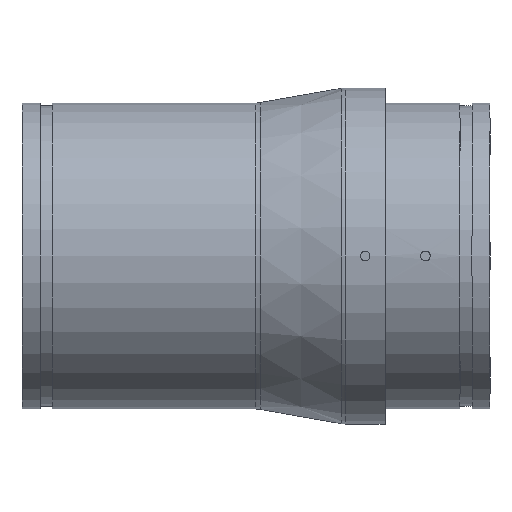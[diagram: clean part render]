
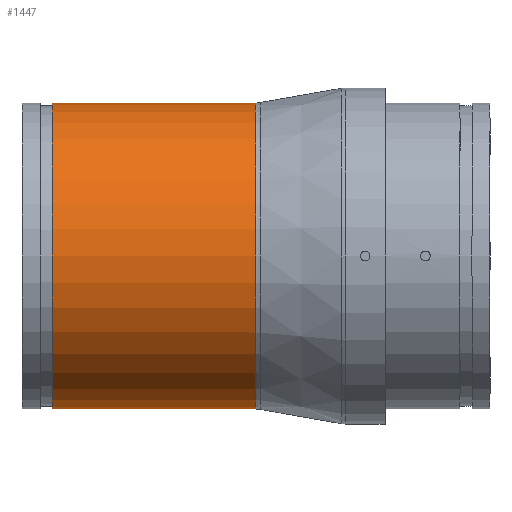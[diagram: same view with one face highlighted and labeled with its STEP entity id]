
A CAD part, front view. The second image highlights one B-rep face of the part: STEP entity #1447.
In plain terms, the highlighted cylindrical face has radius 161.925 mm (diameter 323.85 mm), a full revolution.
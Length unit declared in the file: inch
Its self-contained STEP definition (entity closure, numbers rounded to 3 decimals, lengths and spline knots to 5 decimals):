
#127=FACE_OUTER_BOUND('',#204,.T.);
#204=EDGE_LOOP('',(#1093,#1094,#1095,#1096,#1097,#1098,#1099,#1100,#1101,
#1102,#1103,#1104,#1105,#1106,#1107,#1108,#1109,#1110,#1111,#1112,#1113,
#1114,#1115,#1116,#1117));
#262=ELLIPSE('',#1568,6.47334,6.375);
#263=ELLIPSE('',#1572,6.47334,6.375);
#264=ELLIPSE('',#1574,6.47334,6.375);
#265=ELLIPSE('',#1577,6.47334,6.375);
#266=ELLIPSE('',#1579,6.47334,6.375);
#267=ELLIPSE('',#1582,6.47334,6.375);
#268=ELLIPSE('',#1591,6.78413,6.375);
#269=ELLIPSE('',#1592,42.30875,6.375);
#270=ELLIPSE('',#1597,42.30875,6.375);
#330=LINE('',#2320,#449);
#334=LINE('',#2329,#453);
#343=LINE('',#2351,#462);
#350=LINE('',#2369,#469);
#358=LINE('',#2408,#477);
#359=LINE('',#2410,#478);
#360=LINE('',#2413,#479);
#361=LINE('',#2414,#480);
#362=LINE('',#2420,#481);
#449=VECTOR('',#1843,0.3937);
#453=VECTOR('',#1849,0.3937);
#462=VECTOR('',#1868,0.3937);
#469=VECTOR('',#1885,0.3937);
#477=VECTOR('',#1913,0.3937);
#478=VECTOR('',#1914,0.3937);
#479=VECTOR('',#1917,0.3937);
#480=VECTOR('',#1918,0.3937);
#481=VECTOR('',#1923,6.375);
#525=CIRCLE('',#1584,6.375);
#530=CIRCLE('',#1593,6.375);
#531=CIRCLE('',#1594,6.375);
#532=CIRCLE('',#1595,6.375);
#533=CIRCLE('',#1596,6.375);
#534=CIRCLE('',#1598,6.375);
#626=VERTEX_POINT('',#2309);
#627=VERTEX_POINT('',#2310);
#630=VERTEX_POINT('',#2318);
#631=VERTEX_POINT('',#2319);
#634=VERTEX_POINT('',#2327);
#635=VERTEX_POINT('',#2328);
#637=VERTEX_POINT('',#2335);
#639=VERTEX_POINT('',#2341);
#641=VERTEX_POINT('',#2344);
#643=VERTEX_POINT('',#2350);
#645=VERTEX_POINT('',#2356);
#647=VERTEX_POINT('',#2362);
#649=VERTEX_POINT('',#2368);
#650=VERTEX_POINT('',#2373);
#653=VERTEX_POINT('',#2382);
#658=VERTEX_POINT('',#2409);
#659=VERTEX_POINT('',#2411);
#660=VERTEX_POINT('',#2415);
#661=VERTEX_POINT('',#2417);
#662=VERTEX_POINT('',#2419);
#663=VERTEX_POINT('',#2421);
#664=VERTEX_POINT('',#2424);
#665=VERTEX_POINT('',#2426);
#785=EDGE_CURVE('',#626,#627,#262,.T.);
#789=EDGE_CURVE('',#630,#631,#330,.T.);
#793=EDGE_CURVE('',#634,#635,#334,.T.);
#797=EDGE_CURVE('',#637,#630,#263,.T.);
#801=EDGE_CURVE('',#641,#639,#264,.T.);
#804=EDGE_CURVE('',#643,#641,#343,.T.);
#807=EDGE_CURVE('',#645,#643,#265,.T.);
#810=EDGE_CURVE('',#631,#647,#266,.T.);
#813=EDGE_CURVE('',#627,#649,#350,.T.);
#816=EDGE_CURVE('',#635,#650,#267,.T.);
#822=EDGE_CURVE('',#649,#653,#525,.T.);
#828=EDGE_CURVE('',#650,#637,#358,.T.);
#829=EDGE_CURVE('',#647,#658,#359,.T.);
#830=EDGE_CURVE('',#658,#659,#268,.T.);
#831=EDGE_CURVE('',#659,#645,#360,.T.);
#832=EDGE_CURVE('',#639,#626,#361,.T.);
#833=EDGE_CURVE('',#660,#653,#269,.T.);
#834=EDGE_CURVE('',#661,#660,#530,.T.);
#835=EDGE_CURVE('',#661,#662,#362,.T.);
#836=EDGE_CURVE('',#662,#663,#531,.T.);
#837=EDGE_CURVE('',#663,#662,#532,.T.);
#838=EDGE_CURVE('',#664,#661,#533,.T.);
#839=EDGE_CURVE('',#665,#664,#270,.T.);
#840=EDGE_CURVE('',#665,#634,#534,.T.);
#1093=ORIENTED_EDGE('',*,*,#793,.T.);
#1094=ORIENTED_EDGE('',*,*,#816,.T.);
#1095=ORIENTED_EDGE('',*,*,#828,.T.);
#1096=ORIENTED_EDGE('',*,*,#797,.T.);
#1097=ORIENTED_EDGE('',*,*,#789,.T.);
#1098=ORIENTED_EDGE('',*,*,#810,.T.);
#1099=ORIENTED_EDGE('',*,*,#829,.T.);
#1100=ORIENTED_EDGE('',*,*,#830,.T.);
#1101=ORIENTED_EDGE('',*,*,#831,.T.);
#1102=ORIENTED_EDGE('',*,*,#807,.T.);
#1103=ORIENTED_EDGE('',*,*,#804,.T.);
#1104=ORIENTED_EDGE('',*,*,#801,.T.);
#1105=ORIENTED_EDGE('',*,*,#832,.T.);
#1106=ORIENTED_EDGE('',*,*,#785,.T.);
#1107=ORIENTED_EDGE('',*,*,#813,.T.);
#1108=ORIENTED_EDGE('',*,*,#822,.T.);
#1109=ORIENTED_EDGE('',*,*,#833,.F.);
#1110=ORIENTED_EDGE('',*,*,#834,.F.);
#1111=ORIENTED_EDGE('',*,*,#835,.T.);
#1112=ORIENTED_EDGE('',*,*,#836,.T.);
#1113=ORIENTED_EDGE('',*,*,#837,.T.);
#1114=ORIENTED_EDGE('',*,*,#835,.F.);
#1115=ORIENTED_EDGE('',*,*,#838,.F.);
#1116=ORIENTED_EDGE('',*,*,#839,.F.);
#1117=ORIENTED_EDGE('',*,*,#840,.T.);
#1319=CYLINDRICAL_SURFACE('',#1590,6.375);
#1447=ADVANCED_FACE('',(#127),#1319,.T.);
#1568=AXIS2_PLACEMENT_3D('',#2311,#1836,#1837);
#1572=AXIS2_PLACEMENT_3D('',#2336,#1855,#1856);
#1574=AXIS2_PLACEMENT_3D('',#2345,#1862,#1863);
#1577=AXIS2_PLACEMENT_3D('',#2357,#1873,#1874);
#1579=AXIS2_PLACEMENT_3D('',#2363,#1879,#1880);
#1582=AXIS2_PLACEMENT_3D('',#2374,#1890,#1891);
#1584=AXIS2_PLACEMENT_3D('',#2396,#1898,#1899);
#1590=AXIS2_PLACEMENT_3D('',#2407,#1911,#1912);
#1591=AXIS2_PLACEMENT_3D('',#2412,#1915,#1916);
#1592=AXIS2_PLACEMENT_3D('',#2416,#1919,#1920);
#1593=AXIS2_PLACEMENT_3D('',#2418,#1921,#1922);
#1594=AXIS2_PLACEMENT_3D('',#2422,#1924,#1925);
#1595=AXIS2_PLACEMENT_3D('',#2423,#1926,#1927);
#1596=AXIS2_PLACEMENT_3D('',#2425,#1928,#1929);
#1597=AXIS2_PLACEMENT_3D('',#2427,#1930,#1931);
#1598=AXIS2_PLACEMENT_3D('',#2428,#1932,#1933);
#1836=DIRECTION('center_axis',(-0.985,0.174,0.));
#1837=DIRECTION('ref_axis',(0.174,0.985,0.));
#1843=DIRECTION('',(-1.,0.,0.));
#1849=DIRECTION('',(-1.,0.,0.));
#1855=DIRECTION('center_axis',(0.985,0.174,0.));
#1856=DIRECTION('ref_axis',(-0.174,0.985,0.));
#1862=DIRECTION('center_axis',(0.985,0.174,0.));
#1863=DIRECTION('ref_axis',(-0.174,0.985,0.));
#1868=DIRECTION('',(1.,0.,0.));
#1873=DIRECTION('center_axis',(-0.985,0.174,0.));
#1874=DIRECTION('ref_axis',(0.174,0.985,0.));
#1879=DIRECTION('center_axis',(-0.985,0.174,0.));
#1880=DIRECTION('ref_axis',(0.174,0.985,0.));
#1885=DIRECTION('',(1.,0.,0.));
#1890=DIRECTION('center_axis',(-0.985,0.174,0.));
#1891=DIRECTION('ref_axis',(0.174,0.985,0.));
#1898=DIRECTION('center_axis',(-1.,0.,0.));
#1899=DIRECTION('ref_axis',(0.,1.,0.));
#1911=DIRECTION('center_axis',(1.,0.,0.));
#1912=DIRECTION('ref_axis',(0.,1.,0.));
#1913=DIRECTION('',(-1.,0.,0.));
#1914=DIRECTION('',(-1.,0.,0.));
#1915=DIRECTION('center_axis',(-0.94,0.342,0.));
#1916=DIRECTION('ref_axis',(0.342,0.94,0.));
#1917=DIRECTION('',(1.,0.,0.));
#1918=DIRECTION('',(1.,0.,0.));
#1919=DIRECTION('center_axis',(0.151,0.,0.989));
#1920=DIRECTION('ref_axis',(0.989,0.,-0.151));
#1921=DIRECTION('center_axis',(1.,0.,0.));
#1922=DIRECTION('ref_axis',(0.,-1.,0.));
#1923=DIRECTION('',(-1.,0.,0.));
#1924=DIRECTION('center_axis',(1.,0.,0.));
#1925=DIRECTION('ref_axis',(0.,0.,-1.));
#1926=DIRECTION('center_axis',(1.,0.,0.));
#1927=DIRECTION('ref_axis',(0.,0.,-1.));
#1928=DIRECTION('center_axis',(1.,0.,0.));
#1929=DIRECTION('ref_axis',(0.,-1.,0.));
#1930=DIRECTION('center_axis',(0.151,0.,-0.989));
#1931=DIRECTION('ref_axis',(0.989,0.,0.151));
#1932=DIRECTION('center_axis',(-1.,0.,0.));
#1933=DIRECTION('ref_axis',(0.,1.,0.));
#2309=CARTESIAN_POINT('',(6.42915,6.32957,-0.75971));
#2310=CARTESIAN_POINT('',(6.29425,5.56452,-3.11075));
#2311=CARTESIAN_POINT('Origin',(5.31308,0.,0.));
#2318=CARTESIAN_POINT('',(4.17644,5.56452,3.11075));
#2319=CARTESIAN_POINT('',(2.91277,5.56452,3.11075));
#2320=CARTESIAN_POINT('',(9.75,5.56452,3.11075));
#2327=CARTESIAN_POINT('',(7.38,5.56452,3.11075));
#2328=CARTESIAN_POINT('',(6.29425,5.56452,3.11075));
#2329=CARTESIAN_POINT('',(9.75,5.56452,3.11075));
#2335=CARTESIAN_POINT('',(4.04154,6.32957,0.75971));
#2336=CARTESIAN_POINT('Origin',(5.15761,0.,0.));
#2341=CARTESIAN_POINT('',(4.04154,6.32957,-0.75971));
#2344=CARTESIAN_POINT('',(4.17644,5.56452,-3.11075));
#2345=CARTESIAN_POINT('Origin',(5.15761,0.,0.));
#2350=CARTESIAN_POINT('',(2.91277,5.56452,-3.11075));
#2351=CARTESIAN_POINT('',(9.75,5.56452,-3.11075));
#2356=CARTESIAN_POINT('',(3.04767,6.32957,-0.75971));
#2357=CARTESIAN_POINT('Origin',(1.9316,0.,0.));
#2362=CARTESIAN_POINT('',(3.04767,6.32957,0.75971));
#2363=CARTESIAN_POINT('Origin',(1.9316,0.,0.));
#2368=CARTESIAN_POINT('',(7.38,5.56452,-3.11075));
#2369=CARTESIAN_POINT('',(9.75,5.56452,-3.11075));
#2373=CARTESIAN_POINT('',(6.42915,6.32957,0.75971));
#2374=CARTESIAN_POINT('Origin',(5.31308,0.,0.));
#2382=CARTESIAN_POINT('',(7.38,2.11459,-6.01408));
#2396=CARTESIAN_POINT('Origin',(7.38,0.,0.));
#2407=CARTESIAN_POINT('Origin',(9.75,0.,0.));
#2408=CARTESIAN_POINT('',(9.75,6.32957,0.75971));
#2409=CARTESIAN_POINT('',(1.72976,6.32957,0.75971));
#2410=CARTESIAN_POINT('',(9.75,6.32957,0.75971));
#2411=CARTESIAN_POINT('',(1.72976,6.32957,-0.75971));
#2412=CARTESIAN_POINT('Origin',(-0.57402,0.,
0.));
#2413=CARTESIAN_POINT('',(9.75,6.32957,-0.75971));
#2414=CARTESIAN_POINT('',(9.75,6.32957,-0.75971));
#2415=CARTESIAN_POINT('',(9.74796,0.,-6.375));
#2416=CARTESIAN_POINT('Origin',(-32.07774,0.,
0.));
#2417=CARTESIAN_POINT('',(9.74796,-6.375,0.));
#2418=CARTESIAN_POINT('Origin',(9.74796,0.,0.));
#2419=CARTESIAN_POINT('',(1.25,-6.375,0.));
#2420=CARTESIAN_POINT('',(9.75,-6.375,0.));
#2421=CARTESIAN_POINT('',(1.25,6.375,0.));
#2422=CARTESIAN_POINT('Origin',(1.25,0.,0.));
#2423=CARTESIAN_POINT('Origin',(1.25,0.,0.));
#2424=CARTESIAN_POINT('',(9.74796,0.,6.375));
#2425=CARTESIAN_POINT('Origin',(9.74796,0.,0.));
#2426=CARTESIAN_POINT('',(7.38,2.11459,6.01408));
#2427=CARTESIAN_POINT('Origin',(-32.07774,0.,
0.));
#2428=CARTESIAN_POINT('Origin',(7.38,0.,0.));
